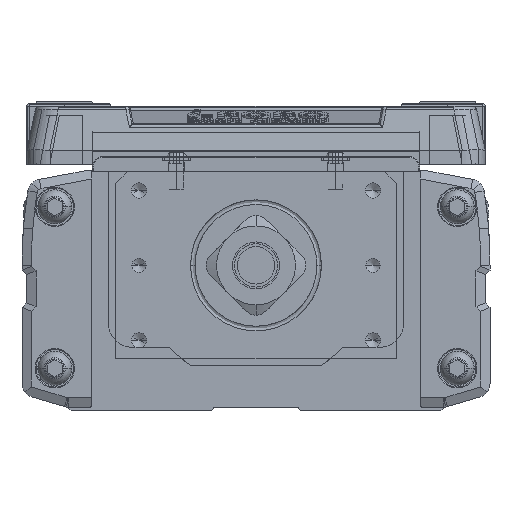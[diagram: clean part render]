
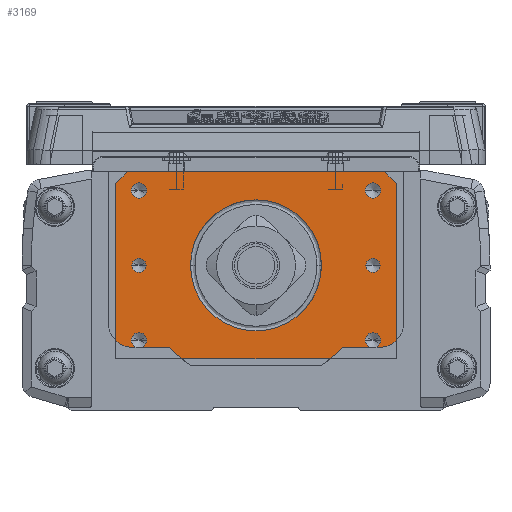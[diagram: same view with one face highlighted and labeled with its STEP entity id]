
A CAD part, left-side view. The second image highlights one B-rep face of the part: STEP entity #3169.
In plain terms, the highlighted planar face has unit normal (-1, 0, 0).
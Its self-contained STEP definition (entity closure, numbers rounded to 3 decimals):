
#3169=ADVANCED_FACE('',(#7928,#7929,#7930,#7931,#7932,#7933,#7934,#7935),#7936,.T.);
#7928=FACE_BOUND('',#14667,.T.);
#7929=FACE_BOUND('',#14668,.T.);
#7930=FACE_BOUND('',#14669,.T.);
#7931=FACE_BOUND('',#14670,.T.);
#7932=FACE_BOUND('',#14671,.T.);
#7933=FACE_BOUND('',#14672,.T.);
#7934=FACE_BOUND('',#14673,.T.);
#7935=FACE_OUTER_BOUND('',#14674,.T.);
#7936=PLANE('',#14675);
#14667=EDGE_LOOP('',(#23831,#23832));
#14668=EDGE_LOOP('',(#23833,#23834));
#14669=EDGE_LOOP('',(#23835,#23836));
#14670=EDGE_LOOP('',(#23837,#23838));
#14671=EDGE_LOOP('',(#23839,#23840));
#14672=EDGE_LOOP('',(#23841,#23842));
#14673=EDGE_LOOP('',(#23843,#23844,#23845));
#14674=EDGE_LOOP('',(#23846,#23847,#23848,#23849,#23850,#23851));
#14675=AXIS2_PLACEMENT_3D('',#23852,#23853,#23854);
#23831=ORIENTED_EDGE('',*,*,#41436,.T.);
#23832=ORIENTED_EDGE('',*,*,#41437,.T.);
#23833=ORIENTED_EDGE('',*,*,#41438,.T.);
#23834=ORIENTED_EDGE('',*,*,#41439,.T.);
#23835=ORIENTED_EDGE('',*,*,#41440,.T.);
#23836=ORIENTED_EDGE('',*,*,#41441,.T.);
#23837=ORIENTED_EDGE('',*,*,#41442,.T.);
#23838=ORIENTED_EDGE('',*,*,#41443,.T.);
#23839=ORIENTED_EDGE('',*,*,#41444,.T.);
#23840=ORIENTED_EDGE('',*,*,#39368,.T.);
#23841=ORIENTED_EDGE('',*,*,#41445,.T.);
#23842=ORIENTED_EDGE('',*,*,#41446,.T.);
#23843=ORIENTED_EDGE('',*,*,#41447,.T.);
#23844=ORIENTED_EDGE('',*,*,#41448,.T.);
#23845=ORIENTED_EDGE('',*,*,#41449,.T.);
#23846=ORIENTED_EDGE('',*,*,#41450,.F.);
#23847=ORIENTED_EDGE('',*,*,#40932,.F.);
#23848=ORIENTED_EDGE('',*,*,#41451,.T.);
#23849=ORIENTED_EDGE('',*,*,#41452,.T.);
#23850=ORIENTED_EDGE('',*,*,#41453,.F.);
#23851=ORIENTED_EDGE('',*,*,#41454,.T.);
#23852=CARTESIAN_POINT('',(-580.,0.,-20.));
#23853=DIRECTION('',(-1.0,0.,0.));
#23854=DIRECTION('',(0.,-1.0,0.));
#39368=EDGE_CURVE('',#46866,#46863,#46867,.T.);
#40932=EDGE_CURVE('',#49652,#49648,#49654,.T.);
#41436=EDGE_CURVE('',#50474,#50475,#50476,.T.);
#41437=EDGE_CURVE('',#50475,#50474,#50477,.T.);
#41438=EDGE_CURVE('',#50478,#50479,#50480,.T.);
#41439=EDGE_CURVE('',#50479,#50478,#50481,.T.);
#41440=EDGE_CURVE('',#50482,#50483,#50484,.T.);
#41441=EDGE_CURVE('',#50483,#50482,#50485,.T.);
#41442=EDGE_CURVE('',#50486,#50487,#50488,.T.);
#41443=EDGE_CURVE('',#50487,#50486,#50489,.T.);
#41444=EDGE_CURVE('',#46863,#46866,#50490,.T.);
#41445=EDGE_CURVE('',#50491,#50492,#50493,.T.);
#41446=EDGE_CURVE('',#50492,#50491,#50494,.T.);
#41447=EDGE_CURVE('',#50495,#50496,#50497,.T.);
#41448=EDGE_CURVE('',#50496,#50498,#50499,.T.);
#41449=EDGE_CURVE('',#50498,#50495,#50500,.T.);
#41450=EDGE_CURVE('',#49648,#50501,#50502,.T.);
#41451=EDGE_CURVE('',#49652,#50503,#50504,.T.);
#41452=EDGE_CURVE('',#50503,#50505,#50506,.T.);
#41453=EDGE_CURVE('',#50507,#50505,#50508,.T.);
#41454=EDGE_CURVE('',#50507,#50501,#50509,.T.);
#46863=VERTEX_POINT('',#57807);
#46866=VERTEX_POINT('',#57811);
#46867=CIRCLE('',#57812,1.65);
#49648=VERTEX_POINT('',#61753);
#49652=VERTEX_POINT('',#61759);
#49654=LINE('',#61762,#61763);
#50474=VERTEX_POINT('',#62908);
#50475=VERTEX_POINT('',#62909);
#50476=CIRCLE('',#62910,1.5);
#50477=CIRCLE('',#62911,1.5);
#50478=VERTEX_POINT('',#62912);
#50479=VERTEX_POINT('',#62913);
#50480=CIRCLE('',#62914,1.5);
#50481=CIRCLE('',#62915,1.5);
#50482=VERTEX_POINT('',#62916);
#50483=VERTEX_POINT('',#62917);
#50484=CIRCLE('',#62918,1.65);
#50485=CIRCLE('',#62919,1.65);
#50486=VERTEX_POINT('',#62920);
#50487=VERTEX_POINT('',#62921);
#50488=CIRCLE('',#62922,1.65);
#50489=CIRCLE('',#62923,1.65);
#50490=CIRCLE('',#62924,1.65);
#50491=VERTEX_POINT('',#62925);
#50492=VERTEX_POINT('',#62926);
#50493=CIRCLE('',#62927,1.65);
#50494=CIRCLE('',#62928,1.65);
#50495=VERTEX_POINT('',#62929);
#50496=VERTEX_POINT('',#62930);
#50497=CIRCLE('',#62931,14.0);
#50498=VERTEX_POINT('',#62932);
#50499=CIRCLE('',#62933,14.0);
#50500=CIRCLE('',#62934,14.0);
#50501=VERTEX_POINT('',#62935);
#50502=LINE('',#62936,#62937);
#50503=VERTEX_POINT('',#62938);
#50504=LINE('',#62939,#62940);
#50505=VERTEX_POINT('',#62941);
#50506=LINE('',#62942,#62943);
#50507=VERTEX_POINT('',#62944);
#50508=LINE('',#62945,#62946);
#50509=LINE('',#62947,#62948);
#57807=CARTESIAN_POINT('',(-580.,26.65,16.));
#57811=CARTESIAN_POINT('',(-580.,23.35,16.));
#57812=AXIS2_PLACEMENT_3D('',#73194,#73195,#73196);
#61753=CARTESIAN_POINT('',(-580.,30.,17.5));
#61759=CARTESIAN_POINT('',(-580.,30.,-20.));
#61762=CARTESIAN_POINT('',(-580.,30.,-20.));
#61763=VECTOR('',#75484,10.0);
#62908=CARTESIAN_POINT('',(-580.,-26.5,0.));
#62909=CARTESIAN_POINT('',(-580.,-23.5,0.));
#62910=AXIS2_PLACEMENT_3D('',#76164,#76165,#76166);
#62911=AXIS2_PLACEMENT_3D('',#76167,#76168,#76169);
#62912=CARTESIAN_POINT('',(-580.,26.5,0.));
#62913=CARTESIAN_POINT('',(-580.,23.5,0.));
#62914=AXIS2_PLACEMENT_3D('',#76170,#76171,#76172);
#62915=AXIS2_PLACEMENT_3D('',#76173,#76174,#76175);
#62916=CARTESIAN_POINT('',(-580.,-26.65,-16.));
#62917=CARTESIAN_POINT('',(-580.,-23.35,-16.));
#62918=AXIS2_PLACEMENT_3D('',#76176,#76177,#76178);
#62919=AXIS2_PLACEMENT_3D('',#76179,#76180,#76181);
#62920=CARTESIAN_POINT('',(-580.,26.65,-16.));
#62921=CARTESIAN_POINT('',(-580.,23.35,-16.));
#62922=AXIS2_PLACEMENT_3D('',#76182,#76183,#76184);
#62923=AXIS2_PLACEMENT_3D('',#76185,#76186,#76187);
#62924=AXIS2_PLACEMENT_3D('',#76188,#76189,#76190);
#62925=CARTESIAN_POINT('',(-580.,-26.65,16.));
#62926=CARTESIAN_POINT('',(-580.,-23.35,16.));
#62927=AXIS2_PLACEMENT_3D('',#76191,#76192,#76193);
#62928=AXIS2_PLACEMENT_3D('',#76194,#76195,#76196);
#62929=CARTESIAN_POINT('',(-580.,0.,-14.));
#62930=CARTESIAN_POINT('',(-580.,14.,0.));
#62931=AXIS2_PLACEMENT_3D('',#76197,#76198,#76199);
#62932=CARTESIAN_POINT('',(-580.,-14.,0.));
#62933=AXIS2_PLACEMENT_3D('',#76200,#76201,#76202);
#62934=AXIS2_PLACEMENT_3D('',#76203,#76204,#76205);
#62935=CARTESIAN_POINT('',(-580.,27.5,20.));
#62936=CARTESIAN_POINT('',(-580.,31.25,16.25));
#62937=VECTOR('',#76206,10.);
#62938=CARTESIAN_POINT('',(-580.,-30.,-20.));
#62939=CARTESIAN_POINT('',(-580.,30.,-20.));
#62940=VECTOR('',#76207,10.0);
#62941=CARTESIAN_POINT('',(-580.,-30.,17.5));
#62942=CARTESIAN_POINT('',(-580.,-30.,-20.));
#62943=VECTOR('',#76208,10.0);
#62944=CARTESIAN_POINT('',(-580.,-27.5,20.));
#62945=CARTESIAN_POINT('',(-580.,-31.25,16.25));
#62946=VECTOR('',#76209,10.);
#62947=CARTESIAN_POINT('',(-580.,30.,20.));
#62948=VECTOR('',#76210,10.0);
#73194=CARTESIAN_POINT('',(-580.,25.,16.));
#73195=DIRECTION('',(1.0,0.,0.));
#73196=DIRECTION('',(0.,1.0,0.));
#75484=DIRECTION('',(0.,0.,1.0));
#76164=CARTESIAN_POINT('',(-580.,-25.,0.));
#76165=DIRECTION('',(1.0,0.,0.));
#76166=DIRECTION('',(0.,-1.0,0.));
#76167=CARTESIAN_POINT('',(-580.,-25.,0.));
#76168=DIRECTION('',(1.0,0.,0.));
#76169=DIRECTION('',(0.,-1.0,0.));
#76170=CARTESIAN_POINT('',(-580.,25.,0.));
#76171=DIRECTION('',(1.0,0.,0.));
#76172=DIRECTION('',(0.,1.0,0.));
#76173=CARTESIAN_POINT('',(-580.,25.,0.));
#76174=DIRECTION('',(1.0,0.,0.));
#76175=DIRECTION('',(0.,1.0,0.));
#76176=CARTESIAN_POINT('',(-580.,-25.,-16.));
#76177=DIRECTION('',(1.0,0.,0.));
#76178=DIRECTION('',(0.,-1.0,0.));
#76179=CARTESIAN_POINT('',(-580.,-25.,-16.));
#76180=DIRECTION('',(1.0,0.,0.));
#76181=DIRECTION('',(0.,-1.0,0.));
#76182=CARTESIAN_POINT('',(-580.,25.,-16.));
#76183=DIRECTION('',(1.0,0.,0.));
#76184=DIRECTION('',(0.,1.0,0.));
#76185=CARTESIAN_POINT('',(-580.,25.,-16.));
#76186=DIRECTION('',(1.0,0.,0.));
#76187=DIRECTION('',(0.,1.0,0.));
#76188=CARTESIAN_POINT('',(-580.,25.,16.));
#76189=DIRECTION('',(1.0,0.,0.));
#76190=DIRECTION('',(0.,1.0,0.));
#76191=CARTESIAN_POINT('',(-580.,-25.,16.));
#76192=DIRECTION('',(1.0,0.,0.));
#76193=DIRECTION('',(0.,-1.0,0.));
#76194=CARTESIAN_POINT('',(-580.,-25.,16.));
#76195=DIRECTION('',(1.0,0.,0.));
#76196=DIRECTION('',(0.,-1.0,0.));
#76197=CARTESIAN_POINT('',(-580.,0.,0.));
#76198=DIRECTION('',(1.0,0.,0.));
#76199=DIRECTION('',(0.,0.,1.0));
#76200=CARTESIAN_POINT('',(-580.,0.,0.));
#76201=DIRECTION('',(1.0,0.,0.));
#76202=DIRECTION('',(0.,0.,1.0));
#76203=CARTESIAN_POINT('',(-580.,0.,0.));
#76204=DIRECTION('',(1.0,0.,0.));
#76205=DIRECTION('',(0.,0.,1.0));
#76206=DIRECTION('',(0.,-0.707,0.707));
#76207=DIRECTION('',(0.,-1.0,0.));
#76208=DIRECTION('',(0.,0.,1.0));
#76209=DIRECTION('',(0.0,-0.707,-0.707));
#76210=DIRECTION('',(0.,1.0,0.));
